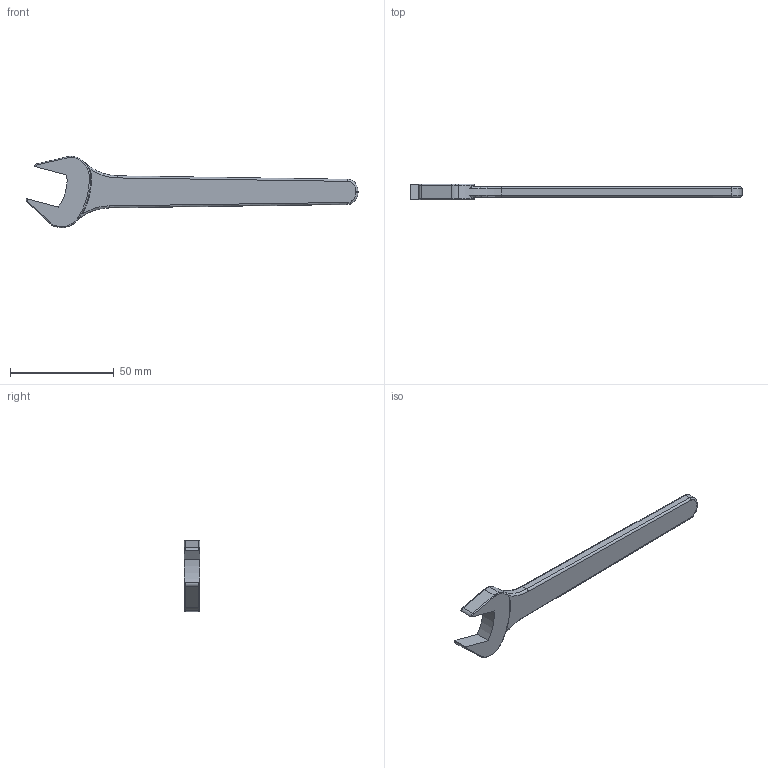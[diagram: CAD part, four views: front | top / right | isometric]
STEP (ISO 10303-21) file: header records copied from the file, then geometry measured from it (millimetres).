
FILE_DESCRIPTION (( 'STEP AP214' ), '1' );
FILE_NAME ('One-sided-spanner-Spear-16.STEP', '2021-12-02T04:17:16', ( 'ASIS User' ), ( 'ASIS User' ), 'SwSTEP 2.0', 'SolidWorks 2021', '' );
FILE_SCHEMA (( 'AUTOMOTIVE_DESIGN' ));
Length unit declared in the file: millimetre
Products named in the file (1): One-sided-spanner-Spear-16
Bounding box: 160.06 x 7.5 x 34.39 mm (x, y, z)
Volume: 12896.8 mm3; surface area: 6681 mm2
Topology: 1 solids, 1 shells, 69 faces, 165 edges, 94 vertices
Faces by surface type: torus 24, cylinder 22, bspline 12, plane 11
Entity records: 2419 total; most frequent: CARTESIAN_POINT 865, DIRECTION 331, ORIENTED_EDGE 322, EDGE_CURVE 161, AXIS2_PLACEMENT_3D 144, VERTEX_POINT 94, CIRCLE 86, EDGE_LOOP 69
